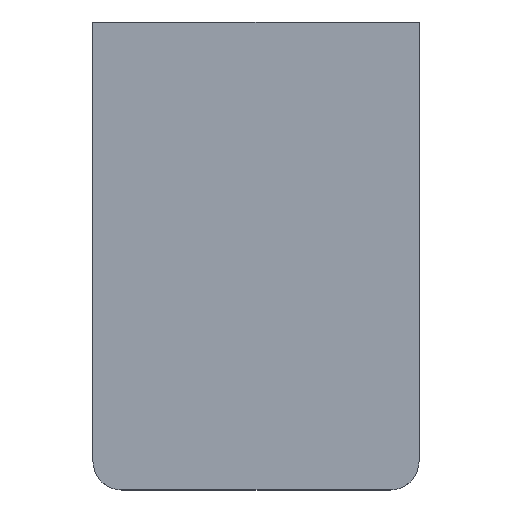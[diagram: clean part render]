
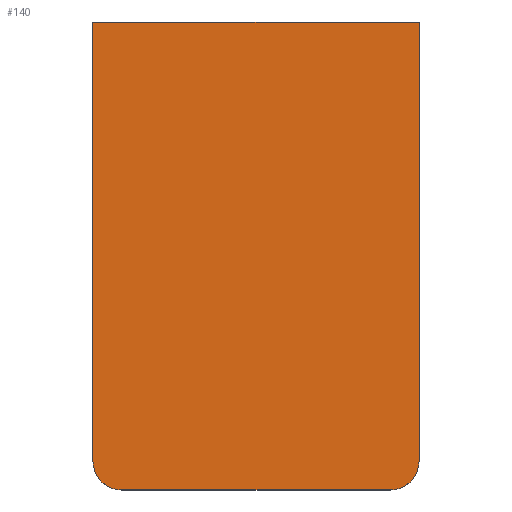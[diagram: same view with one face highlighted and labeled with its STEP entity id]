
A CAD part, top view. The second image highlights one B-rep face of the part: STEP entity #140.
In plain terms, the highlighted planar face has unit normal (0, 0, 1).
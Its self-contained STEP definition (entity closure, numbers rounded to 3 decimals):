
#19=CIRCLE('',#165,0.7);
#20=CIRCLE('',#166,0.7);
#24=FACE_OUTER_BOUND('',#32,.T.);
#32=EDGE_LOOP('',(#109,#110,#111,#112,#113,#114));
#39=LINE('',#219,#53);
#44=LINE('',#233,#58);
#46=LINE('',#239,#60);
#47=LINE('',#242,#61);
#53=VECTOR('',#177,1.);
#58=VECTOR('',#190,1.);
#60=VECTOR('',#196,1.);
#61=VECTOR('',#199,1.);
#67=VERTEX_POINT('',#216);
#68=VERTEX_POINT('',#218);
#73=VERTEX_POINT('',#232);
#74=VERTEX_POINT('',#236);
#75=VERTEX_POINT('',#238);
#76=VERTEX_POINT('',#240);
#79=EDGE_CURVE('',#67,#68,#39,.T.);
#86=EDGE_CURVE('',#73,#68,#44,.T.);
#88=EDGE_CURVE('',#67,#74,#19,.T.);
#89=EDGE_CURVE('',#74,#75,#46,.T.);
#90=EDGE_CURVE('',#75,#76,#20,.T.);
#91=EDGE_CURVE('',#76,#73,#47,.T.);
#109=ORIENTED_EDGE('',*,*,#79,.F.);
#110=ORIENTED_EDGE('',*,*,#88,.T.);
#111=ORIENTED_EDGE('',*,*,#89,.T.);
#112=ORIENTED_EDGE('',*,*,#90,.T.);
#113=ORIENTED_EDGE('',*,*,#91,.T.);
#114=ORIENTED_EDGE('',*,*,#86,.T.);
#134=PLANE('',#164);
#140=ADVANCED_FACE('',(#24),#134,.T.);
#164=AXIS2_PLACEMENT_3D('',#235,#192,#193);
#165=AXIS2_PLACEMENT_3D('',#237,#194,#195);
#166=AXIS2_PLACEMENT_3D('',#241,#197,#198);
#177=DIRECTION('',(0.,1.,0.));
#190=DIRECTION('',(-1.,0.,0.));
#192=DIRECTION('center_axis',(0.,0.,1.));
#193=DIRECTION('ref_axis',(1.,0.,0.));
#194=DIRECTION('center_axis',(0.,0.,1.));
#195=DIRECTION('ref_axis',(1.,0.,0.));
#196=DIRECTION('',(1.,0.,0.));
#197=DIRECTION('center_axis',(0.,0.,1.));
#198=DIRECTION('ref_axis',(1.,0.,0.));
#199=DIRECTION('',(0.,1.,0.));
#216=CARTESIAN_POINT('',(-28.75,32.7,-7.9));
#218=CARTESIAN_POINT('',(-28.75,43.48,-7.9));
#219=CARTESIAN_POINT('',(-28.75,45.,-7.9));
#232=CARTESIAN_POINT('',(-20.75,43.48,-7.9));
#233=CARTESIAN_POINT('',(-26.875,43.48,-7.9));
#235=CARTESIAN_POINT('Origin',(-24.75,45.,-7.9));
#236=CARTESIAN_POINT('',(-28.05,32.,-7.9));
#237=CARTESIAN_POINT('Origin',(-28.05,32.7,-7.9));
#238=CARTESIAN_POINT('',(-21.45,32.,-7.9));
#239=CARTESIAN_POINT('',(-24.75,32.,-7.9));
#240=CARTESIAN_POINT('',(-20.75,32.7,-7.9));
#241=CARTESIAN_POINT('Origin',(-21.45,32.7,-7.9));
#242=CARTESIAN_POINT('',(-20.75,45.,-7.9));
